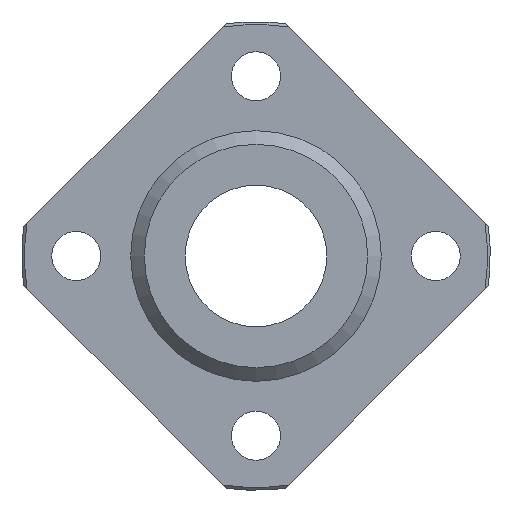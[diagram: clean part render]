
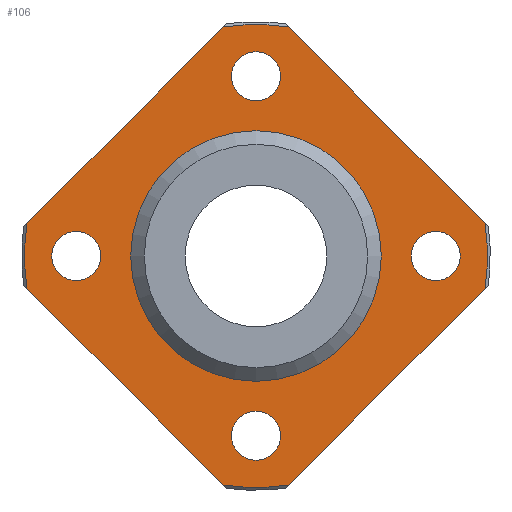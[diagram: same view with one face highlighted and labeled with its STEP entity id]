
A CAD part, left-side view. The second image highlights one B-rep face of the part: STEP entity #106.
In plain terms, the highlighted planar face has unit normal (-1, 0, 0).
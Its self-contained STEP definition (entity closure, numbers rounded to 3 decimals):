
#106=ADVANCED_FACE('',(#190,#191,#192,#193,#194,#195),#196,.F.);
#190=FACE_OUTER_BOUND('',#293,.T.);
#191=FACE_BOUND('',#294,.T.);
#192=FACE_BOUND('',#295,.T.);
#193=FACE_BOUND('',#296,.T.);
#194=FACE_BOUND('',#297,.T.);
#195=FACE_BOUND('',#298,.T.);
#196=PLANE('',#299);
#293=EDGE_LOOP('',(#522,#523,#524,#525,#526,#527,#528,#529));
#294=EDGE_LOOP('',(#530));
#295=EDGE_LOOP('',(#531));
#296=EDGE_LOOP('',(#532));
#297=EDGE_LOOP('',(#533));
#298=EDGE_LOOP('',(#534));
#299=AXIS2_PLACEMENT_3D('',#535,#536,#537);
#522=ORIENTED_EDGE('',*,*,#603,.F.);
#523=ORIENTED_EDGE('',*,*,#625,.T.);
#524=ORIENTED_EDGE('',*,*,#604,.F.);
#525=ORIENTED_EDGE('',*,*,#587,.T.);
#526=ORIENTED_EDGE('',*,*,#607,.F.);
#527=ORIENTED_EDGE('',*,*,#623,.T.);
#528=ORIENTED_EDGE('',*,*,#582,.F.);
#529=ORIENTED_EDGE('',*,*,#576,.T.);
#530=ORIENTED_EDGE('',*,*,#595,.T.);
#531=ORIENTED_EDGE('',*,*,#597,.T.);
#532=ORIENTED_EDGE('',*,*,#641,.T.);
#533=ORIENTED_EDGE('',*,*,#640,.T.);
#534=ORIENTED_EDGE('',*,*,#642,.T.);
#535=CARTESIAN_POINT('',(-9.0,11.5,0.0));
#536=DIRECTION('',(1.0,0.0,0.0));
#537=DIRECTION('',(0.0,0.0,-1.0));
#576=EDGE_CURVE('',#651,#649,#652,.T.);
#582=EDGE_CURVE('',#651,#662,#663,.T.);
#587=EDGE_CURVE('',#672,#670,#673,.T.);
#595=EDGE_CURVE('',#687,#687,#688,.T.);
#597=EDGE_CURVE('',#691,#691,#692,.T.);
#603=EDGE_CURVE('',#700,#649,#702,.T.);
#604=EDGE_CURVE('',#672,#703,#704,.T.);
#607=EDGE_CURVE('',#708,#670,#709,.T.);
#623=EDGE_CURVE('',#708,#662,#732,.T.);
#625=EDGE_CURVE('',#700,#703,#734,.T.);
#640=EDGE_CURVE('',#762,#762,#763,.T.);
#641=EDGE_CURVE('',#764,#764,#765,.T.);
#642=EDGE_CURVE('',#766,#766,#767,.T.);
#649=VERTEX_POINT('',#778);
#651=VERTEX_POINT('',#783);
#652=LINE('',#784,#785);
#662=VERTEX_POINT('',#806);
#663=CIRCLE('',#807,21.246);
#670=VERTEX_POINT('',#818);
#672=VERTEX_POINT('',#823);
#673=LINE('',#824,#825);
#687=VERTEX_POINT('',#850);
#688=CIRCLE('',#851,2.25);
#691=VERTEX_POINT('',#854);
#692=CIRCLE('',#855,2.25);
#700=VERTEX_POINT('',#866);
#702=CIRCLE('',#871,21.246);
#703=VERTEX_POINT('',#872);
#704=CIRCLE('',#873,21.246);
#708=VERTEX_POINT('',#880);
#709=CIRCLE('',#881,21.246);
#732=LINE('',#920,#921);
#734=LINE('',#924,#925);
#762=VERTEX_POINT('',#954);
#763=CIRCLE('',#955,2.25);
#764=VERTEX_POINT('',#956);
#765=CIRCLE('',#957,2.25);
#766=VERTEX_POINT('',#958);
#767=CIRCLE('',#959,11.5);
#778=CARTESIAN_POINT('',(-9.0,-3.01,21.032));
#783=CARTESIAN_POINT('',(-9.0,-21.032,3.01));
#784=CARTESIAN_POINT('',(-9.0,-6.271,17.771));
#785=VECTOR('',#967,1.0);
#806=CARTESIAN_POINT('',(-9.0,-21.032,-3.01));
#807=AXIS2_PLACEMENT_3D('',#970,#971,#972);
#818=CARTESIAN_POINT('',(-9.0,3.01,-21.032));
#823=CARTESIAN_POINT('',(-9.0,21.032,-3.01));
#824=CARTESIAN_POINT('',(-9.0,17.771,-6.271));
#825=VECTOR('',#977,1.0);
#850=CARTESIAN_POINT('',(-9.0,0.0,14.25));
#851=AXIS2_PLACEMENT_3D('',#986,#987,#988);
#854=CARTESIAN_POINT('',(-9.0,0.0,-18.75));
#855=AXIS2_PLACEMENT_3D('',#992,#993,#994);
#866=CARTESIAN_POINT('',(-9.0,3.01,21.032));
#871=AXIS2_PLACEMENT_3D('',#1004,#1005,#1006);
#872=CARTESIAN_POINT('',(-9.0,21.032,3.01));
#873=AXIS2_PLACEMENT_3D('',#1007,#1008,#1009);
#880=CARTESIAN_POINT('',(-9.0,-3.01,-21.032));
#881=AXIS2_PLACEMENT_3D('',#1013,#1014,#1015);
#920=CARTESIAN_POINT('',(-9.0,-6.271,-17.771));
#921=VECTOR('',#1041,1.0);
#924=CARTESIAN_POINT('',(-9.0,17.771,6.271));
#925=VECTOR('',#1043,1.0);
#954=CARTESIAN_POINT('',(-9.0,-16.5,-2.25));
#955=AXIS2_PLACEMENT_3D('',#1084,#1085,#1086);
#956=CARTESIAN_POINT('',(-9.0,16.5,-2.25));
#957=AXIS2_PLACEMENT_3D('',#1087,#1088,#1089);
#958=CARTESIAN_POINT('',(-9.0,0.0,-11.5));
#959=AXIS2_PLACEMENT_3D('',#1090,#1091,#1092);
#967=DIRECTION('',(0.0,0.707,0.707));
#970=CARTESIAN_POINT('',(-9.0,0.0,0.0));
#971=DIRECTION('',(1.0,0.0,0.0));
#972=DIRECTION('',(0.0,0.0,-1.0));
#977=DIRECTION('',(0.0,-0.707,-0.707));
#986=CARTESIAN_POINT('',(-9.0,0.0,16.5));
#987=DIRECTION('',(1.0,0.0,0.0));
#988=DIRECTION('',(0.0,0.0,-1.0));
#992=CARTESIAN_POINT('',(-9.0,0.0,-16.5));
#993=DIRECTION('',(1.0,0.0,0.0));
#994=DIRECTION('',(0.0,0.0,-1.0));
#1004=CARTESIAN_POINT('',(-9.0,0.0,0.0));
#1005=DIRECTION('',(1.0,0.0,0.0));
#1006=DIRECTION('',(0.0,0.0,-1.0));
#1007=CARTESIAN_POINT('',(-9.0,0.0,0.0));
#1008=DIRECTION('',(1.0,0.0,0.0));
#1009=DIRECTION('',(0.0,0.0,-1.0));
#1013=CARTESIAN_POINT('',(-9.0,0.0,0.0));
#1014=DIRECTION('',(1.0,0.0,0.0));
#1015=DIRECTION('',(0.0,0.0,-1.0));
#1041=DIRECTION('',(0.0,-0.707,0.707));
#1043=DIRECTION('',(0.0,0.707,-0.707));
#1084=CARTESIAN_POINT('',(-9.0,-16.5,0.0));
#1085=DIRECTION('',(1.0,0.0,0.0));
#1086=DIRECTION('',(0.0,0.0,-1.0));
#1087=CARTESIAN_POINT('',(-9.0,16.5,0.0));
#1088=DIRECTION('',(1.0,0.0,0.0));
#1089=DIRECTION('',(0.0,0.0,-1.0));
#1090=CARTESIAN_POINT('',(-9.0,0.0,0.0));
#1091=DIRECTION('',(1.0,0.0,0.0));
#1092=DIRECTION('',(0.0,0.0,-1.0));
